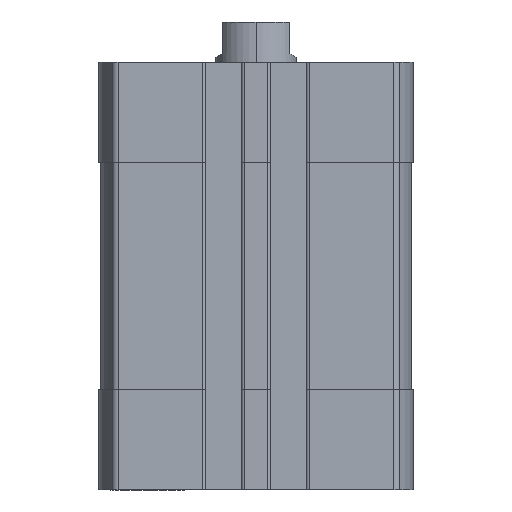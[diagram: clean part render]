
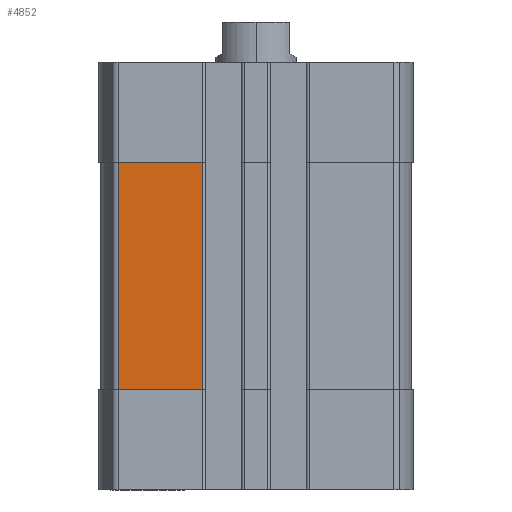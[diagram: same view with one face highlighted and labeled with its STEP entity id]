
A CAD part, left-side view. The second image highlights one B-rep face of the part: STEP entity #4852.
In plain terms, the highlighted planar face has unit normal (-1, 0, 0).
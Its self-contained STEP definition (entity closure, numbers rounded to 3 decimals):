
#132 = CARTESIAN_POINT ( 'NONE',  ( -23.25, 7.95, -49. ) ) ;
#315 = VECTOR ( 'NONE', #1350, 1000. ) ;
#711 = VECTOR ( 'NONE', #8315, 1000. ) ;
#1253 = AXIS2_PLACEMENT_3D ( 'NONE', #10040, #13625, #6440 ) ;
#1258 = ORIENTED_EDGE ( 'NONE', *, *, #11600, .T. ) ;
#1350 = DIRECTION ( 'NONE',  ( 0., 0., -1. ) ) ;
#3492 = EDGE_CURVE ( 'NONE', #11689, #3835, #13921, .T. ) ;
#3835 = VERTEX_POINT ( 'NONE', #7645 ) ;
#4353 = LINE ( 'NONE', #132, #315 ) ;
#4661 = CARTESIAN_POINT ( 'NONE',  ( -23.25, 20.543, -49. ) ) ;
#4852 = ADVANCED_FACE ( 'NONE', ( #11732 ), #5200, .T. ) ;
#5200 = PLANE ( 'NONE',  #1253 ) ;
#5387 = CARTESIAN_POINT ( 'NONE',  ( -23.25, 7.95, -15. ) ) ;
#5616 = VECTOR ( 'NONE', #11590, 1000. ) ;
#5756 = EDGE_CURVE ( 'NONE', #13571, #9804, #4353, .T. ) ;
#5767 = CARTESIAN_POINT ( 'NONE',  ( -23.25, 20.543, -15. ) ) ;
#6307 = CARTESIAN_POINT ( 'NONE',  ( -23.25, 0., -15. ) ) ;
#6353 = LINE ( 'NONE', #15077, #5616 ) ;
#6440 = DIRECTION ( 'NONE',  ( 0., 0., 1. ) ) ;
#7534 = DIRECTION ( 'NONE',  ( 0., 1., 0. ) ) ;
#7645 = CARTESIAN_POINT ( 'NONE',  ( -23.25, 20.543, -49. ) ) ;
#8315 = DIRECTION ( 'NONE',  ( 0., 0., -1. ) ) ;
#9804 = VERTEX_POINT ( 'NONE', #11107 ) ;
#9990 = VECTOR ( 'NONE', #7534, 1000. ) ;
#10040 = CARTESIAN_POINT ( 'NONE',  ( -23.25, 20.543, -49. ) ) ;
#10201 = ORIENTED_EDGE ( 'NONE', *, *, #5756, .F. ) ;
#10502 = EDGE_CURVE ( 'NONE', #13571, #11689, #13177, .T. ) ;
#11107 = CARTESIAN_POINT ( 'NONE',  ( -23.25, 7.95, -49. ) ) ;
#11590 = DIRECTION ( 'NONE',  ( 0., -1., 0. ) ) ;
#11600 = EDGE_CURVE ( 'NONE', #3835, #9804, #6353, .T. ) ;
#11689 = VERTEX_POINT ( 'NONE', #5767 ) ;
#11732 = FACE_OUTER_BOUND ( 'NONE', #13318, .T. ) ;
#12358 = ORIENTED_EDGE ( 'NONE', *, *, #3492, .T. ) ;
#12390 = ORIENTED_EDGE ( 'NONE', *, *, #10502, .T. ) ;
#13177 = LINE ( 'NONE', #6307, #9990 ) ;
#13318 = EDGE_LOOP ( 'NONE', ( #1258, #10201, #12390, #12358 ) ) ;
#13571 = VERTEX_POINT ( 'NONE', #5387 ) ;
#13625 = DIRECTION ( 'NONE',  ( -1., 0., 0. ) ) ;
#13921 = LINE ( 'NONE', #4661, #711 ) ;
#15077 = CARTESIAN_POINT ( 'NONE',  ( -23.25, 20.543, -49. ) ) ;
